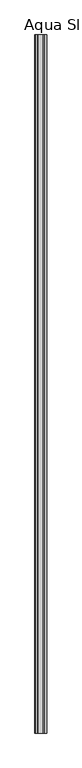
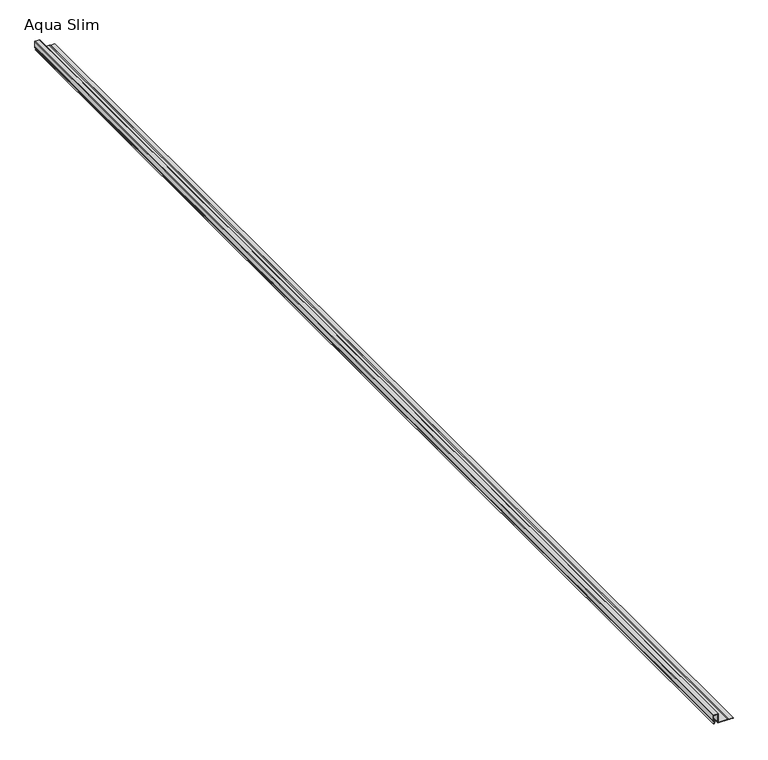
"""IFC4 building model written with IfcOpenShell, lengths in millimetres: proxy geometry, AQUAPLAST - Panel Dachowy i Elewacyjny Aqua Slim : Aqua Slim."""

import ifcopenshell
import ifcopenshell.guid

model = None  # the IFC model being written
_history = None  # IfcOwnerHistory: only IFC2X3 demands one
_inside = {}  # id of a spatial element -> (the spatial element, [elements in it])
_under = {}  # id of a project, library or spatial element -> (it, [spatial elements below it])
_declared = {}  # id of a project -> (the project, [libraries it declares])
_typed = {}  # id of a type object -> (the type object, [elements of that type])
_made_of = {}  # id of a material, layer set ... -> (it, [elements and type objects made of it])


def new_model(schema):
    """Start an empty IFC model of exactly this schema.

    Asked for "IFC4X3", IfcOpenShell would pick the latest addendum, in which some entities
    have other attributes; the version numbers below select the first issue.
    IFC2X3 requires an IfcOwnerHistory on every rooted entity: one is made here for all.
    """
    global model, _history
    if schema == "IFC4X3":
        model = ifcopenshell.file(schema_version=(4, 3, 0, 0))
    else:
        model = ifcopenshell.file(schema=schema)
    _inside.clear()
    _under.clear()
    _declared.clear()
    _typed.clear()
    _made_of.clear()
    _history = None
    if model.schema == "IFC2X3":
        org = make("IfcOrganization", Name="unknown")
        user = make(
            "IfcPersonAndOrganization",
            ThePerson=make("IfcPerson", FamilyName="unknown"),
            TheOrganization=org,
        )
        app = make(
            "IfcApplication",
            ApplicationDeveloper=org,
            Version="unknown",
            ApplicationFullName="unknown",
            ApplicationIdentifier="unknown",
        )
        _history = make(
            "IfcOwnerHistory",
            OwningUser=user,
            OwningApplication=app,
            ChangeAction="ADDED",
            CreationDate=0,
        )
    return model


def make(cls, **values):
    """One entity of the class cls with the attributes given. An attribute that is None is left unset."""
    return model.create_entity(
        cls, **{name: value for name, value in values.items() if value is not None}
    )


def rooted(cls, **values):
    """An entity with a GlobalId (a new one), such as an element, a storey or a relation."""
    return make(cls, GlobalId=ifcopenshell.guid.new(), OwnerHistory=_history, **values)


def si_unit(unit_type, name, prefix=None):
    """IfcSIUnit, for example si_unit("LENGTHUNIT", "METRE", prefix="MILLI")."""
    return make("IfcSIUnit", UnitType=unit_type, Prefix=prefix, Name=name)


def assignment(units):
    """IfcUnitAssignment: the units of a project."""
    return None if units is None else make("IfcUnitAssignment", Units=units)


def point(xyz):
    """IfcCartesianPoint."""
    return None if xyz is None else make("IfcCartesianPoint", Coordinates=xyz)


def direction(xyz):
    """IfcDirection."""
    return None if xyz is None else make("IfcDirection", DirectionRatios=xyz)


def frame(location, z_axis=None, x_axis=None):
    """IfcAxis2Placement3D, a coordinate frame: its origin and axes. An axis left out is left unset."""
    return make(
        "IfcAxis2Placement3D",
        Location=point(location),
        Axis=direction(z_axis),
        RefDirection=direction(x_axis),
    )


def frame_2d(location, x_axis=None):
    """IfcAxis2Placement2D, a coordinate frame in the plane: its origin and x axis."""
    return make(
        "IfcAxis2Placement2D", Location=point(location), RefDirection=direction(x_axis)
    )


def origin():
    """The frame at (0, 0, 0) with its axes left unset."""
    return frame((0.0, 0.0, 0.0))


def origin_with_axes():
    """The frame at (0, 0, 0) with the z axis (0, 0, 1) and the x axis (1, 0, 0) written out."""
    return frame((0.0, 0.0, 0.0), z_axis=(0.0, 0.0, 1.0), x_axis=(1.0, 0.0, 0.0))


def place(relative_to, where):
    """IfcLocalPlacement: puts the frame where relative to a parent placement (None: the world)."""
    return make(
        "IfcLocalPlacement", PlacementRelTo=relative_to, RelativePlacement=where
    )


def context(
    kind, dimensions, precision=None, world=None, true_north=None, identifier=None
):
    """IfcGeometricRepresentationContext, for example the 3D "Model" context."""
    return make(
        "IfcGeometricRepresentationContext",
        ContextIdentifier=identifier,
        ContextType=kind,
        CoordinateSpaceDimension=dimensions,
        Precision=precision,
        WorldCoordinateSystem=world,
        TrueNorth=true_north,
    )


def project(units=None, contexts=None):
    """IfcProject with its units and contexts."""
    return rooted(
        "IfcProject",
        Name="project",
        RepresentationContexts=contexts,
        UnitsInContext=assignment(units),
    )


def spatial(cls, under=None, at=None, **own):
    """A site, building, storey or space (cls), placed at a placement, below another one or the project."""
    s = rooted(cls, ObjectPlacement=at, **own)
    if under is not None:
        _under.setdefault(under.id(), (under, []))[1].append(s)
    return s


def polyline(points):
    """IfcPolyline through the points."""
    return make("IfcPolyline", Points=[point(p) for p in points])


def circle_curve(where, radius):
    """IfcCircle in the frame where."""
    return make("IfcCircle", Position=where, Radius=radius)


def trimmed(basis, trim1, trim2, sense, master):
    """IfcTrimmedCurve: the piece of a basis curve between two trims."""
    return make(
        "IfcTrimmedCurve",
        BasisCurve=basis,
        Trim1=trim1,
        Trim2=trim2,
        SenseAgreement=sense,
        MasterRepresentation=master,
    )


def segment(curve, same_sense, transition):
    """IfcCompositeCurveSegment."""
    return make(
        "IfcCompositeCurveSegment",
        Transition=transition,
        SameSense=same_sense,
        ParentCurve=curve,
    )


def composite_curve(segments, self_intersect=None):
    """IfcCompositeCurve: segments joined end to end."""
    return make("IfcCompositeCurve", Segments=segments, SelfIntersect=self_intersect)


def outline(outer, holes=None, kind="AREA"):
    """IfcArbitraryClosedProfileDef: a profile drawn as a closed curve; with holes, ...WithVoids."""
    if holes is None:
        return make("IfcArbitraryClosedProfileDef", ProfileType=kind, OuterCurve=outer)
    return make(
        "IfcArbitraryProfileDefWithVoids",
        ProfileType=kind,
        OuterCurve=outer,
        InnerCurves=holes,
    )


def extrude(swept, where, along, depth):
    """IfcExtrudedAreaSolid: the profile swept, set in the frame where, extruded along a direction by depth."""
    return make(
        "IfcExtrudedAreaSolid",
        SweptArea=swept,
        Position=where,
        ExtrudedDirection=direction(along),
        Depth=depth,
    )


def shape(context_of_items, identifier, shape_type, items):
    """IfcShapeRepresentation: the items that make up one representation, for example the "Body"."""
    return make(
        "IfcShapeRepresentation",
        ContextOfItems=context_of_items,
        RepresentationIdentifier=identifier,
        RepresentationType=shape_type,
        Items=items,
    )


def source(mapping_origin, context_of_items, identifier, shape_type, items):
    """IfcRepresentationMap: a shape defined once, which mapped items show again and again."""
    return make(
        "IfcRepresentationMap",
        MappingOrigin=mapping_origin,
        MappedRepresentation=shape(context_of_items, identifier, shape_type, items),
    )


def transform(
    local_origin,
    x_axis=None,
    y_axis=None,
    z_axis=None,
    scale=None,
    scale2=None,
    scale3=None,
    uniform=True,
):
    """IfcCartesianTransformationOperator3D, or its non-uniform kind. x_axis, y_axis, z_axis: its Axis1, 2, 3."""
    if uniform:
        return make(
            "IfcCartesianTransformationOperator3D",
            Axis1=direction(x_axis),
            Axis2=direction(y_axis),
            LocalOrigin=point(local_origin),
            Scale=scale,
            Axis3=direction(z_axis),
        )
    return make(
        "IfcCartesianTransformationOperator3DnonUniform",
        Axis1=direction(x_axis),
        Axis2=direction(y_axis),
        LocalOrigin=point(local_origin),
        Scale=scale,
        Axis3=direction(z_axis),
        Scale2=scale2,
        Scale3=scale3,
    )


def mapped(mapping_source, mapping_target):
    """IfcMappedItem: shows the shape of a source again, moved by a transform."""
    return make(
        "IfcMappedItem", MappingSource=mapping_source, MappingTarget=mapping_target
    )


def made_of(thing, what):
    """Note that an element or type object is made of a material, layer set ...; save() writes the relation."""
    if what is not None:
        _made_of.setdefault(what.id(), (what, []))[1].append(thing)
    return thing


def element(
    cls,
    number,
    at=None,
    inside=None,
    cuts=None,
    type_object=None,
    material=None,
    context=None,
    identifier="Body",
    shape_type=None,
    held_by="IfcProductDefinitionShape",
    body=None,
    shapes=None,
    **own,
):
    """One element of the class cls, such as IfcWall. Its Tag is "e" and its number.

    at: its placement. inside: the storey or other place that contains it. cuts: it is an
    opening in that element (IfcRelVoidsElement). A single representation is given by context,
    identifier, shape_type and body (its items); several are given by shapes. held_by: the class
    of the entity that holds the representations. save() writes the other relations.
    """
    e = rooted(cls, Tag="e%d" % number, ObjectPlacement=at, **own)
    if body is not None:
        shapes = [shape(context, identifier, shape_type, body)]
    if shapes is not None:
        e.Representation = make(held_by, Representations=shapes)
    if inside is not None:
        _inside.setdefault(inside.id(), (inside, []))[1].append(e)
    if cuts is not None:
        rooted(
            "IfcRelVoidsElement", RelatingBuildingElement=cuts, RelatedOpeningElement=e
        )
    if type_object is not None:
        _typed.setdefault(type_object.id(), (type_object, []))[1].append(e)
    return made_of(e, material)


def aggregate(whole, parts):
    """IfcRelAggregates: a whole, such as a stair, and the parts it consists of."""
    return rooted("IfcRelAggregates", RelatingObject=whole, RelatedObjects=parts)


def save(model, path):
    """Write the relations noted so far, then the file.

    IfcRelAggregates (storeys below a building ...), IfcRelContainedInSpatialStructure (elements
    in a storey), IfcRelDefinesByType, IfcRelAssociatesMaterial and IfcRelDeclares: one each for
    every whole, place, type object, material and project.
    """
    for whole, parts in _under.values():
        aggregate(whole, parts)
    for where, things in _inside.values():
        rooted(
            "IfcRelContainedInSpatialStructure",
            RelatedElements=things,
            RelatingStructure=where,
        )
    for kind, things in _typed.values():
        rooted("IfcRelDefinesByType", RelatedObjects=things, RelatingType=kind)
    for what, things in _made_of.values():
        rooted("IfcRelAssociatesMaterial", RelatedObjects=things, RelatingMaterial=what)
    for by, libraries in _declared.values():
        rooted("IfcRelDeclares", RelatingContext=by, RelatedDefinitions=libraries)
    model.write(path)


def aqua_slim_2f3ffec5(model_context):
    return source(origin(), model_context, "Body", "SweptSolid", [
        extrude(outline(composite_curve([segment(polyline([(1.6, -135.0), (1.6, -158.1)]), True, "CONTINUOUS"), segment(trimmed(circle_curve(frame_2d((2.1, -158.1)), 0.5), [point((1.6, -158.1))], [point((2.1, -158.6))], True, "CARTESIAN"), True, "CONTINUOUS"), segment(polyline([(2.1, -158.6), (24.5, -158.6)]), True, "CONTINUOUS"), segment(trimmed(circle_curve(frame_2d((24.5, -159.1)), 0.5), [point((24.5, -158.6))], [point((25.0, -159.1))], False, "CARTESIAN"), True, "CONTINUOUS"), segment(polyline([(25.0, -159.1), (25.0, -171.1)]), True, "CONTINUOUS"), segment(trimmed(circle_curve(frame_2d((24.5, -171.1)), 0.5), [point((25.0, -171.1))], [point((24.5, -171.6))], False, "CARTESIAN"), True, "CONTINUOUS"), segment(polyline([(24.5, -171.6), (8.8039223, -171.6)]), True, "CONTINUOUS"), segment(trimmed(circle_curve(frame_2d((8.8039223, -170.9250457)), 0.6749543), [point((8.8039223, -171.6))], [point((8.1289934, -170.9191923))], False, "CARTESIAN"), True, "CONTINUOUS"), segment(trimmed(circle_curve(frame_2d((5.3847863, -170.9191923)), 2.7442071), [point((8.1289934, -170.9191923))], [point((2.6405793, -170.9191923))], True, "CARTESIAN"), True, "CONTINUOUS"), segment(polyline([(2.6405793, -170.9191923), (1.8403383, -170.9191923)]), True, "CONTINUOUS"), segment(trimmed(circle_curve(frame_2d((5.4137846, -170.9191923)), 3.5734462), [point((1.8403383, -170.9191923))], [point((8.9478642, -170.3902321))], False, "CARTESIAN"), True, "CONTINUOUS"), segment(trimmed(circle_curve(frame_2d((9.7850119, -169.9539484)), 0.9440125), [point((8.9478642, -170.3902321))], [point((9.7850119, -170.897961))], True, "CARTESIAN"), True, "CONTINUOUS"), segment(polyline([(9.7850119, -170.897961), (23.6993591, -170.897961)]), True, "CONTINUOUS"), segment(trimmed(circle_curve(frame_2d((23.6993591, -170.3966773)), 0.5012837), [point((23.6993591, -170.897961))], [point((24.2006428, -170.3966773))], True, "CARTESIAN"), True, "CONTINUOUS"), segment(polyline([(24.2006428, -170.3966773), (24.2006428, -159.9001579)]), True, "CONTINUOUS"), segment(trimmed(circle_curve(frame_2d((23.7003195, -159.9001579)), 0.5003233), [point((24.2006428, -159.9001579))], [point((23.7003195, -159.3998346))], True, "CARTESIAN"), True, "CONTINUOUS"), segment(polyline([(23.7003195, -159.3998346), (1.2999699, -159.3998346)]), True, "CONTINUOUS"), segment(trimmed(circle_curve(frame_2d((1.2999699, -158.8999248)), 0.4999098), [point((1.2999699, -159.3998346))], [point((0.8000601, -158.8999248))], False, "CARTESIAN"), True, "CONTINUOUS"), segment(polyline([(0.8000601, -158.8999248), (0.8000601, -135.0), (0.0, -131.5), (0.8, -131.5), (1.6, -135.0)]), True, "CONTINUOUS")], self_intersect=False)), frame((0.0, 0.0, 0.0), z_axis=(0.0, 1.0, 0.0), x_axis=(0.0, 0.0, 1.0)), (0.0, 0.0, 1.0), 2997.0),
        extrude(outline(polyline([(-131.5, 0.0), (-131.5, 2997.0), (-120.9, 2997.0), (-120.9, 0.0), (-131.5, 0.0)])), origin_with_axes(), (0.0, 0.0, 1.0), 0.8),
    ])


if __name__ == "__main__":
    model = new_model("IFC4")
    model_context = context("Model", 3, world=origin())
    ifc_project = project(units=[si_unit("LENGTHUNIT", "METRE", prefix="MILLI")], contexts=[model_context])
    site = spatial("IfcSite", under=ifc_project)
    building = spatial("IfcBuilding", under=site)
    placement = place(None, origin())
    aqua_slim_shape = aqua_slim_2f3ffec5(model_context)
    element("IfcBuildingElementProxy", 1, Name="AQUAPLAST - Panel Dachowy i Elewacyjny Aqua Slim : Aqua Slim", ObjectType="AQUAPLAST - Panel Dachowy i Elewacyjny Aqua Slim : Aqua Slim", at=placement, inside=building, context=model_context, shape_type="MappedRepresentation", body=[
        mapped(aqua_slim_shape, transform((0.0, 0.0, 0.0), x_axis=(1.0, 0.0, 0.0), y_axis=(0.0, 1.0, 0.0), z_axis=(0.0, 0.0, 1.0))),
    ])
    save(model, "model.ifc")
